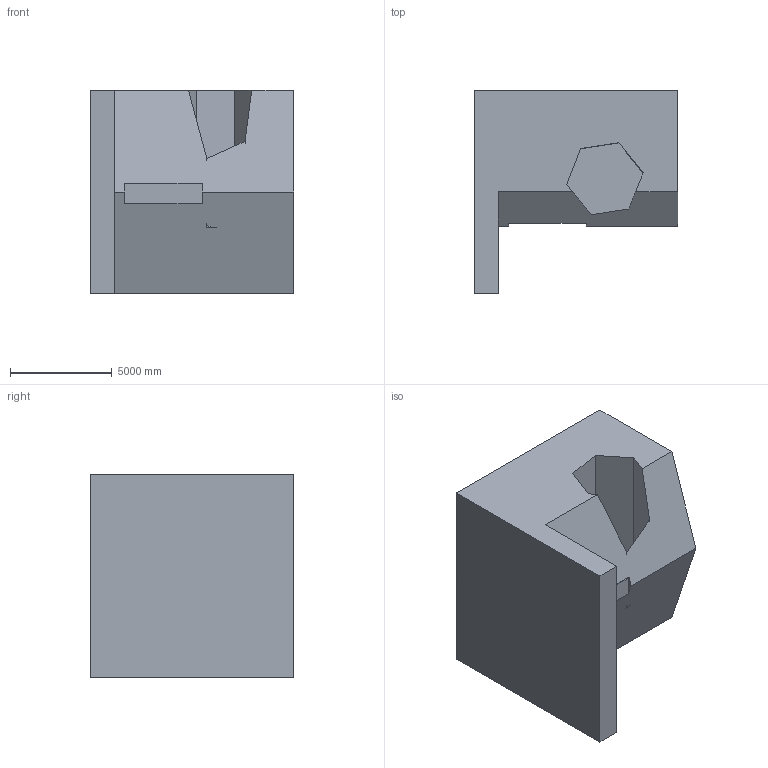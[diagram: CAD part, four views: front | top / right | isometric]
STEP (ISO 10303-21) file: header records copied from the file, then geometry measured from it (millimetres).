
FILE_DESCRIPTION (( 'STEP AP203' ), '1' );
FILE_NAME ('293.STEP', '2022-07-28T14:14:10', ( 'user' ), ( '' ), 'SwSTEP 2.0', 'SolidWorks 2021', '' );
FILE_SCHEMA (( 'CONFIG_CONTROL_DESIGN' ));
Length unit declared in the file: centimetre
Products named in the file (1): 293
Bounding box: 10000 x 10000 x 10000 mm (x, y, z)
Volume: 572420348331.7 mm3; surface area: 579290371 mm2
Topology: 1 solids, 1 shells, 20 faces, 57 edges, 38 vertices
Faces by surface type: plane 20
Entity records: 722 total; most frequent: CARTESIAN_POINT 116, ORIENTED_EDGE 114, DIRECTION 99, LINE 57, EDGE_CURVE 57, VECTOR 57, VERTEX_POINT 38, AXIS2_PLACEMENT_3D 21
